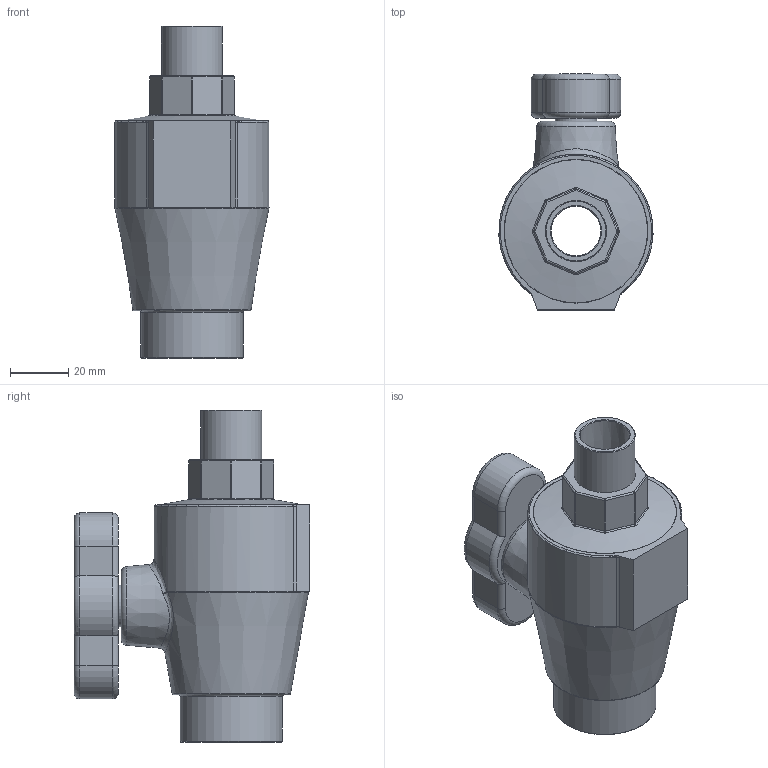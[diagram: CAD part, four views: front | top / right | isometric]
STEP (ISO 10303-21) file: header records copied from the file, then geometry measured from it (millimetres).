
FILE_DESCRIPTION(/* description */ ('PA Ball Valve Female 1/2'''' x Male 1/2'''''),/* implementation_level */ '2;1');
FILE_NAME(/* name */ 'C:\Dropbox\99-16-3568-Processing\S1\0370302\03703020S00005_03703020SF0005.stp',/* time_stamp */ '2022-04-18T17:28:00+03:00',/* author */ ('Lenora'),/* organization */ (''),/* preprocessor_version */ 'ST-DEVELOPER v17.2',/* originating_system */ 'Autodesk Inventor 2019',/* authorisation */ '');
FILE_SCHEMA (('AUTOMOTIVE_DESIGN { 1 0 10303 214 3 1 1 }'));
Length unit declared in the file: millimetre
Products named in the file (1): 03703020S00005_03703020SF0005
Bounding box: 52.91 x 81 x 114 mm (x, y, z)
Volume: 158254.6 mm3; surface area: 30200.1 mm2
Topology: 1 solids, 1 shells, 117 faces, 275 edges, 164 vertices
Faces by surface type: cylinder 36, bspline 26, plane 25, torus 14, cone 8, sphere 8
Full cylindrical faces by diameter (mm): 14.25 x1, 18.631 x1, 20 x1, 20.955 x1, 35.1 x1
Entity records: 4398 total; most frequent: CARTESIAN_POINT 1797, ORIENTED_EDGE 546, DIRECTION 517, EDGE_CURVE 273, AXIS2_PLACEMENT_3D 218, VERTEX_POINT 164, CIRCLE 126, EDGE_LOOP 125
